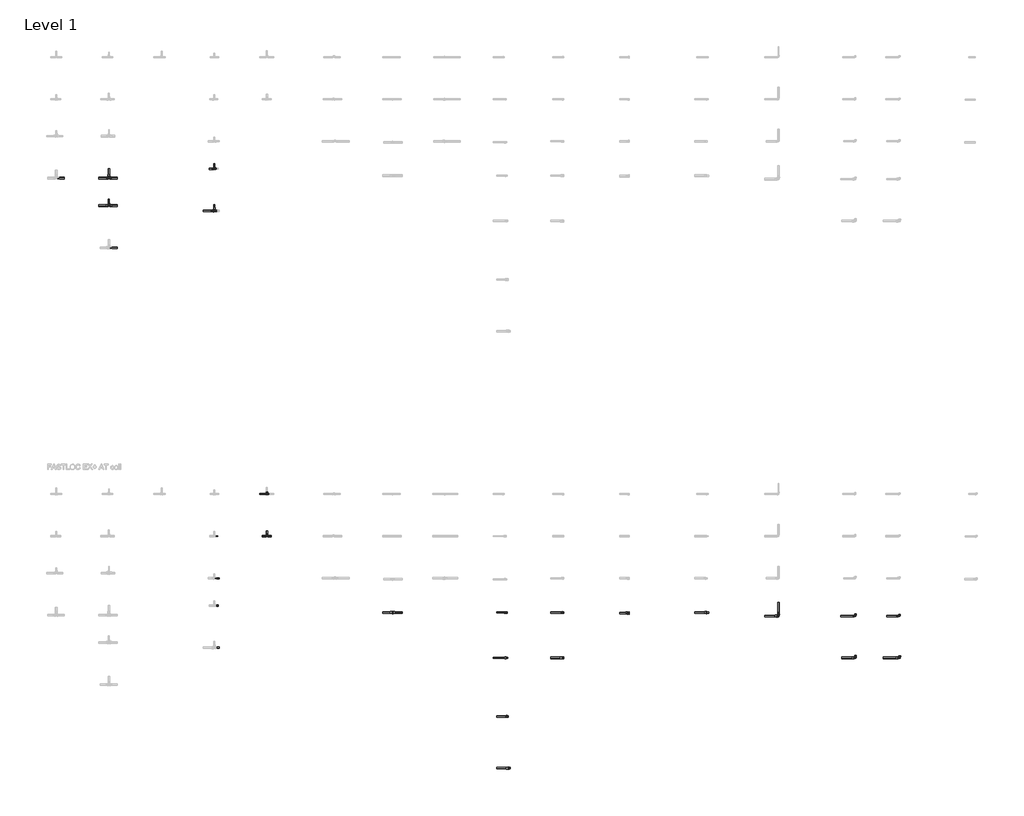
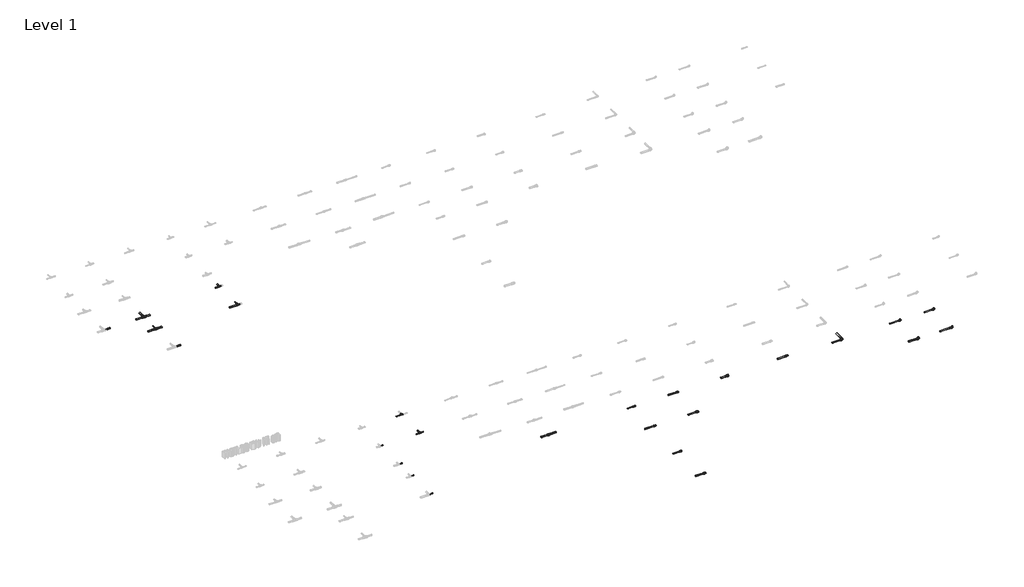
# One storey, part 7 of 16: 36 pipe segments, 20 pipe fittings.
"""IFC4 building model written with IfcOpenShell, lengths in millimetres."""

from ifc_helpers import new_model, si_unit, point, frame, frame_2d, origin, place, context, project, spatial, circle_curve, trimmed, segment, composite_curve, outline, extrude, transform, mapped, element, save
from components import pipe_fitting_78029988, pipe_fitting_d71fb650, pipe_fitting_546e3b0f, pipe_fitting_bc9683d6, pipe_fitting_048a34f4, pipe_fitting_d5e3d02e, pipe_fitting_bff7a8e0, pipe_fitting_f7ca1bd1, pipe_fitting_e188583c, pipe_fitting_cd4c1f98, pipe_fitting_85239123, pipe_fitting_6c2c1df7, pipe_fitting_8eda894a, pipe_fitting_8464d15c, pipe_fitting_a2f8d1bd, pipe_fitting_ed7d2527, pipe_fitting_034b971a, pipe_fitting_5e5bb3cb, pipe_fitting_b159315d, pipe_fitting_1c80bece

model = new_model("IFC4")

# Units and contexts
model_context = context("Model", 3, world=origin())
ifc_project = project(units=[si_unit("LENGTHUNIT", "METRE", prefix="MILLI")], contexts=[model_context])

# Site, building, storey
site = spatial("IfcSite", under=ifc_project)
building = spatial("IfcBuilding", under=site)
storey = spatial("IfcBuildingStorey", under=building, Name="Level 1", Elevation=0.0)

# Pipe fittings
placement = place(None, origin())
pipe_fitting_shape = pipe_fitting_78029988(model_context)
element("IfcPipeFitting", 1, ObjectType="FASTLOC_T-piece_EX+ : FSL T-Piece EX+ AT", at=placement, inside=storey, context=model_context, shape_type="MappedRepresentation", body=[
    mapped(pipe_fitting_shape, transform((32962.9146925, -6287.6479967, 0.0), x_axis=(1.0, 0.0, 0.0), y_axis=(0.0, 1.0, 0.0), z_axis=(0.0, 0.0, 1.0))),
])
pipe_fitting_2_shape = pipe_fitting_d71fb650(model_context)
element("IfcPipeFitting", 2, ObjectType="FASTLOC_Elbow with male thread EX+ : FSL A internal AT", at=placement, inside=storey, context=model_context, shape_type="MappedRepresentation", body=[
    mapped(pipe_fitting_2_shape, transform((44135.3824015, -8604.9640428, 0.0), x_axis=(1.0, 0.0, 0.0), y_axis=(0.0, 1.0, 0.0), z_axis=(0.0, 0.0, 1.0))),
])
pipe_fitting_3_shape = pipe_fitting_546e3b0f(model_context)
element("IfcPipeFitting", 3, ObjectType="FASTLOC_Elbow with male thread EX+ : FSL A internal AT", at=placement, inside=storey, context=model_context, shape_type="MappedRepresentation", body=[
    mapped(pipe_fitting_3_shape, transform((44135.3824015, -9399.407392, 0.0), x_axis=(1.0, 0.0, 0.0), y_axis=(0.0, 1.0, 0.0), z_axis=(0.0, 0.0, 1.0))),
])
pipe_fitting_4_shape = pipe_fitting_bc9683d6(model_context)
element("IfcPipeFitting", 4, ObjectType="FASTLOC_T-piece_EX+ : FSL T-Piece EX+ DE", at=placement, inside=storey, context=model_context, shape_type="MappedRepresentation", body=[
    mapped(pipe_fitting_4_shape, transform((29962.9146925, -287.6479967, 0.0), x_axis=(1.0, 0.0, 0.0), y_axis=(0.0, 1.0, 0.0), z_axis=(0.0, 0.0, 1.0))),
])
pipe_fitting_5_shape = pipe_fitting_048a34f4(model_context)
element("IfcPipeFitting", 5, ObjectType="FASTLOC_T-piece_EX+ : FSL T-Piece EX+ DE", at=placement, inside=storey, context=model_context, shape_type="MappedRepresentation", body=[
    mapped(pipe_fitting_5_shape, transform((29962.9146925, -807.6479967, 0.0), x_axis=(1.0, 0.0, 0.0), y_axis=(0.0, 1.0, 0.0), z_axis=(0.0, 0.0, 1.0))),
])
pipe_fitting_6_shape = pipe_fitting_d5e3d02e(model_context)
element("IfcPipeFitting", 6, ObjectType="FASTLOC_T-piece_EX+ : FSL T-Piece EX+ DE", at=placement, inside=storey, context=model_context, shape_type="MappedRepresentation", body=[
    mapped(pipe_fitting_6_shape, transform((31962.9146925, -907.6479967, 0.0), x_axis=(1.0, 0.0, 0.0), y_axis=(0.0, 1.0, 0.0), z_axis=(0.0, 0.0, 1.0))),
])
pipe_fitting_7_shape = pipe_fitting_bff7a8e0(model_context)
element("IfcPipeFitting", 7, ObjectType="FASTLOC_T-piece_EX+ : FSL T-Piece EX+ DE", at=placement, inside=storey, context=model_context, shape_type="MappedRepresentation", body=[
    mapped(pipe_fitting_7_shape, transform((31962.9146925, -107.6479967, 0.0), x_axis=(1.0, 0.0, 0.0), y_axis=(0.0, 1.0, 0.0), z_axis=(0.0, 0.0, 1.0))),
])
pipe_fitting_8_shape = pipe_fitting_f7ca1bd1(model_context)
element("IfcPipeFitting", 8, ObjectType="FASTLOC_T-piece_EX+ : FSL T-Piece EX+ AT", at=placement, inside=storey, context=model_context, shape_type="MappedRepresentation", body=[
    mapped(pipe_fitting_8_shape, transform((32962.9146925, -7087.6479967, 0.0), x_axis=(1.0, 0.0, 0.0), y_axis=(0.0, 1.0, 0.0), z_axis=(0.0, 0.0, 1.0))),
])
pipe_fitting_9_shape = pipe_fitting_e188583c(model_context)
element("IfcPipeFitting", 9, ObjectType="FASTLOC Copper press adapter RX+ : FSL RX+ AT", at=placement, inside=storey, context=model_context, shape_type="MappedRepresentation", body=[
    mapped(pipe_fitting_9_shape, transform((41315.3824015, -8539.0537829, 0.0), x_axis=(1.0, 0.0, 0.0), y_axis=(0.0, 1.0, 0.0), z_axis=(0.0, 0.0, 1.0))),
])
pipe_fitting_10_shape = pipe_fitting_cd4c1f98(model_context)
element("IfcPipeFitting", 10, ObjectType="FASTLOC_Adapter_EX+, with internal thread : FSL A internal AT", at=placement, inside=storey, context=model_context, shape_type="MappedRepresentation", body=[
    mapped(pipe_fitting_10_shape, transform((38579.5143796, -8539.0537829, 0.0), x_axis=(1.0, 0.0, 0.0), y_axis=(0.0, 1.0, 0.0), z_axis=(0.0, 0.0, 1.0))),
])
pipe_fitting_11_shape = pipe_fitting_85239123(model_context)
element("IfcPipeFitting", 11, ObjectType="FASTLOC_Adapter_EX+, with internal thread : FSL A internal AT", at=placement, inside=storey, context=model_context, shape_type="MappedRepresentation", body=[
    mapped(pipe_fitting_11_shape, transform((38579.5143796, -9399.407392, 0.0), x_axis=(1.0, 0.0, 0.0), y_axis=(0.0, 1.0, 0.0), z_axis=(0.0, 0.0, 1.0))),
])
pipe_fitting_12_shape = pipe_fitting_6c2c1df7(model_context)
element("IfcPipeFitting", 12, ObjectType="FASTLOC_Elbow with female thread EX+ : FSL A internal AT", at=placement, inside=storey, context=model_context, shape_type="MappedRepresentation", body=[
    mapped(pipe_fitting_12_shape, transform((44973.8113057, -8604.9640428, 0.0), x_axis=(1.0, 0.0, 0.0), y_axis=(0.0, 1.0, 0.0), z_axis=(0.0, 0.0, 1.0))),
])
pipe_fitting_13_shape = pipe_fitting_8eda894a(model_context)
element("IfcPipeFitting", 13, ObjectType="FASTLOC_Elbow with female thread EX+ : FSL A internal AT", at=placement, inside=storey, context=model_context, shape_type="MappedRepresentation", body=[
    mapped(pipe_fitting_13_shape, transform((44973.8113057, -9399.407392, 0.0), x_axis=(1.0, 0.0, 0.0), y_axis=(0.0, 1.0, 0.0), z_axis=(0.0, 0.0, 1.0))),
])
pipe_fitting_14_shape = pipe_fitting_8464d15c(model_context)
element("IfcPipeFitting", 14, ObjectType="FASTLOC_Coupling equal EX+ : FSL C EX AT", at=placement, inside=storey, context=model_context, shape_type="MappedRepresentation", body=[
    mapped(pipe_fitting_14_shape, transform((35347.6401575, -8539.0537829, 0.0), x_axis=(1.0, 0.0, 0.0), y_axis=(0.0, 1.0, 0.0), z_axis=(0.0, 0.0, 1.0))),
])
pipe_fitting_15_shape = pipe_fitting_a2f8d1bd(model_context)
element("IfcPipeFitting", 15, ObjectType="FASTLOC_Corner EX+ : FSL C EX+ AT", at=placement, inside=storey, context=model_context, shape_type="MappedRepresentation", body=[
    mapped(pipe_fitting_15_shape, transform((42675.3824015, -8604.9640428, 0.0), x_axis=(1.0, 0.0, 0.0), y_axis=(0.0, 1.0, 0.0), z_axis=(0.0, 0.0, 1.0))),
])
pipe_fitting_16_shape = pipe_fitting_ed7d2527(model_context)
element("IfcPipeFitting", 16, ObjectType="FASTLOC_Adapter_RX+, with external thread : FSL A C external EX+ AT", at=placement, inside=storey, context=model_context, shape_type="MappedRepresentation", body=[
    mapped(pipe_fitting_16_shape, transform((37498.2332092, -8539.0537829, 0.0), x_axis=(1.0, 0.0, 0.0), y_axis=(0.0, 1.0, 0.0), z_axis=(0.0, 0.0, 1.0))),
])
pipe_fitting_17_shape = pipe_fitting_034b971a(model_context)
element("IfcPipeFitting", 17, ObjectType="FASTLOC_Adapter_RX+, with external thread : FSL A C external EX+ AT", at=placement, inside=storey, context=model_context, shape_type="MappedRepresentation", body=[
    mapped(pipe_fitting_17_shape, transform((37510.8952889, -9399.407392, 0.0), x_axis=(1.0, 0.0, 0.0), y_axis=(0.0, 1.0, 0.0), z_axis=(0.0, 0.0, 1.0))),
])
pipe_fitting_18_shape = pipe_fitting_5e5bb3cb(model_context)
element("IfcPipeFitting", 18, ObjectType="FASTLOC_Adapter_RX+, with external thread : FSL A C external EX+ AT", at=placement, inside=storey, context=model_context, shape_type="MappedRepresentation", body=[
    mapped(pipe_fitting_18_shape, transform((37515.9601208, -10513.6704117, 0.0), x_axis=(1.0, 0.0, 0.0), y_axis=(0.0, 1.0, 0.0), z_axis=(0.0, 0.0, 1.0))),
])
pipe_fitting_19_shape = pipe_fitting_b159315d(model_context)
element("IfcPipeFitting", 19, ObjectType="FASTLOC_Adapter_RX+, with external thread : FSL A C external EX+ AT", at=placement, inside=storey, context=model_context, shape_type="MappedRepresentation", body=[
    mapped(pipe_fitting_19_shape, transform((37553.9463601, -11493.7153858, 0.0), x_axis=(1.0, 0.0, 0.0), y_axis=(0.0, 1.0, 0.0), z_axis=(0.0, 0.0, 1.0))),
])
pipe_fitting_20_shape = pipe_fitting_1c80bece(model_context)
element("IfcPipeFitting", 20, ObjectType="FASTLOC_Adapter with union nut EX+ : FSL A union nut EX+ AT", at=placement, inside=storey, context=model_context, shape_type="MappedRepresentation", body=[
    mapped(pipe_fitting_20_shape, transform((39818.3503777, -8547.0537829, 0.0), x_axis=(1.0, 0.0, 0.0), y_axis=(0.0, 1.0, 0.0), z_axis=(0.0, 0.0, 1.0))),
])

# Pipe segments
element("IfcPipeSegment", 21, ObjectType="FASTLOC EX+ ML DE coil", at=placement, inside=storey, context=model_context, shape_type="SweptSolid", body=[
    extrude(outline(composite_curve([segment(trimmed(circle_curve(frame_2d((0.0, 31962.9146925)), 10.0), [point((0.0, 31972.9146925))], [point((10.0, 31962.9146925))], False, "CARTESIAN"), True, "CONTINUOUS"), segment(trimmed(circle_curve(frame_2d((0.0, 31962.9146925)), 10.0), [point((10.0, 31962.9146925))], [point((0.0, 31952.9146925))], False, "CARTESIAN"), True, "CONTINUOUS"), segment(trimmed(circle_curve(frame_2d((0.0, 31962.9146925)), 10.0), [point((0.0, 31952.9146925))], [point((-10.0, 31962.9146925))], False, "CARTESIAN"), True, "CONTINUOUS"), segment(trimmed(circle_curve(frame_2d((0.0, 31962.9146925)), 10.0), [point((-10.0, 31962.9146925))], [point((0.0, 31972.9146925))], False, "CARTESIAN"), True, "CONTINUOUS")], self_intersect=False)), frame((0.0, -78.4479967, 0.0), z_axis=(0.0, 1.0, 0.0), x_axis=(0.0, 0.0, 1.0)), (0.0, 0.0, 1.0), 65.0),
])
element("IfcPipeSegment", 22, ObjectType="FASTLOC EX+ ML DE coil", at=placement, inside=storey, context=model_context, shape_type="SweptSolid", body=[
    extrude(outline(composite_curve([segment(trimmed(circle_curve(frame_2d((-107.6479967, 0.0)), 12.5), [point((-95.1479967, 0.0))], [point((-107.6479967, -12.5))], False, "CARTESIAN"), True, "CONTINUOUS"), segment(trimmed(circle_curve(frame_2d((-107.6479967, 0.0)), 12.5), [point((-107.6479967, -12.5))], [point((-120.1479967, 0.0))], False, "CARTESIAN"), True, "CONTINUOUS"), segment(trimmed(circle_curve(frame_2d((-107.6479967, 0.0)), 12.5), [point((-120.1479967, 0.0))], [point((-107.6479967, 12.5))], False, "CARTESIAN"), True, "CONTINUOUS"), segment(trimmed(circle_curve(frame_2d((-107.6479967, 0.0)), 12.5), [point((-107.6479967, 12.5))], [point((-95.1479967, 0.0))], False, "CARTESIAN"), True, "CONTINUOUS")], self_intersect=False)), frame((31864.6146925, 0.0, 0.0), z_axis=(1.0, 0.0, 0.0), x_axis=(0.0, 1.0, 0.0)), (0.0, 0.0, 1.0), 80.0),
])
element("IfcPipeSegment", 23, ObjectType="FASTLOC EX+ ML DE coil", at=placement, inside=storey, context=model_context, shape_type="SweptSolid", body=[
    extrude(outline(composite_curve([segment(trimmed(circle_curve(frame_2d((0.0, 31962.9146925)), 12.5), [point((0.0, 31975.4146925))], [point((12.5, 31962.9146925))], False, "CARTESIAN"), True, "CONTINUOUS"), segment(trimmed(circle_curve(frame_2d((0.0, 31962.9146925)), 12.5), [point((12.5, 31962.9146925))], [point((0.0, 31950.4146925))], False, "CARTESIAN"), True, "CONTINUOUS"), segment(trimmed(circle_curve(frame_2d((0.0, 31962.9146925)), 12.5), [point((0.0, 31950.4146925))], [point((-12.5, 31962.9146925))], False, "CARTESIAN"), True, "CONTINUOUS"), segment(trimmed(circle_curve(frame_2d((0.0, 31962.9146925)), 12.5), [point((-12.5, 31962.9146925))], [point((0.0, 31975.4146925))], False, "CARTESIAN"), True, "CONTINUOUS")], self_intersect=False)), frame((0.0, -873.2479967, 0.0), z_axis=(0.0, 1.0, 0.0), x_axis=(0.0, 0.0, 1.0)), (0.0, 0.0, 1.0), 85.0),
])
element("IfcPipeSegment", 24, ObjectType="FASTLOC EX+ ML DE coil", at=placement, inside=storey, context=model_context, shape_type="SweptSolid", body=[
    extrude(outline(composite_curve([segment(trimmed(circle_curve(frame_2d((-907.6479967, 0.0)), 16.0), [point((-891.6479967, 0.0))], [point((-907.6479967, -16.0))], False, "CARTESIAN"), True, "CONTINUOUS"), segment(trimmed(circle_curve(frame_2d((-907.6479967, 0.0)), 16.0), [point((-907.6479967, -16.0))], [point((-923.6479967, 0.0))], False, "CARTESIAN"), True, "CONTINUOUS"), segment(trimmed(circle_curve(frame_2d((-907.6479967, 0.0)), 16.0), [point((-923.6479967, 0.0))], [point((-907.6479967, 16.0))], False, "CARTESIAN"), True, "CONTINUOUS"), segment(trimmed(circle_curve(frame_2d((-907.6479967, 0.0)), 16.0), [point((-907.6479967, 16.0))], [point((-891.6479967, 0.0))], False, "CARTESIAN"), True, "CONTINUOUS")], self_intersect=False)), frame((31755.8146925, 0.0, 0.0), z_axis=(1.0, 0.0, 0.0), x_axis=(0.0, 1.0, 0.0)), (0.0, 0.0, 1.0), 185.0),
])
element("IfcPipeSegment", 25, ObjectType="FASTLOC EX+ ML DE coil", at=placement, inside=storey, context=model_context, shape_type="SweptSolid", body=[
    extrude(outline(composite_curve([segment(trimmed(circle_curve(frame_2d((-287.6479967, 0.0)), 16.0), [point((-303.6479967, 0.0))], [point((-287.6479967, 16.0))], False, "CARTESIAN"), True, "CONTINUOUS"), segment(trimmed(circle_curve(frame_2d((-287.6479967, 0.0)), 16.0), [point((-287.6479967, 16.0))], [point((-271.6479967, 0.0))], False, "CARTESIAN"), True, "CONTINUOUS"), segment(trimmed(circle_curve(frame_2d((-287.6479967, 0.0)), 16.0), [point((-271.6479967, 0.0))], [point((-287.6479967, -16.0))], False, "CARTESIAN"), True, "CONTINUOUS"), segment(trimmed(circle_curve(frame_2d((-287.6479967, 0.0)), 16.0), [point((-287.6479967, -16.0))], [point((-303.6479967, 0.0))], False, "CARTESIAN"), True, "CONTINUOUS")], self_intersect=False)), frame((29987.7146925, 0.0, 0.0), z_axis=(1.0, 0.0, 0.0), x_axis=(0.0, 1.0, 0.0)), (0.0, 0.0, 1.0), 130.0),
])
element("IfcPipeSegment", 26, ObjectType="FASTLOC EX+ ML DE coil", at=placement, inside=storey, context=model_context, shape_type="SweptSolid", body=[
    extrude(outline(composite_curve([segment(trimmed(circle_curve(frame_2d((0.0, 29962.9146925)), 16.0), [point((0.0, 29978.9146925))], [point((16.0, 29962.9146925))], False, "CARTESIAN"), True, "CONTINUOUS"), segment(trimmed(circle_curve(frame_2d((0.0, 29962.9146925)), 16.0), [point((16.0, 29962.9146925))], [point((0.0, 29946.9146925))], False, "CARTESIAN"), True, "CONTINUOUS"), segment(trimmed(circle_curve(frame_2d((0.0, 29962.9146925)), 16.0), [point((0.0, 29946.9146925))], [point((-16.0, 29962.9146925))], False, "CARTESIAN"), True, "CONTINUOUS"), segment(trimmed(circle_curve(frame_2d((0.0, 29962.9146925)), 16.0), [point((-16.0, 29962.9146925))], [point((0.0, 29978.9146925))], False, "CARTESIAN"), True, "CONTINUOUS")], self_intersect=False)), frame((0.0, -251.5479967, 0.0), z_axis=(0.0, 1.0, 0.0), x_axis=(0.0, 0.0, 1.0)), (0.0, 0.0, 1.0), 145.0),
])
element("IfcPipeSegment", 27, ObjectType="FASTLOC EX+ ML DE coil", at=placement, inside=storey, context=model_context, shape_type="SweptSolid", body=[
    extrude(outline(composite_curve([segment(trimmed(circle_curve(frame_2d((-287.6479967, 0.0)), 16.0), [point((-271.6479967, 0.0))], [point((-287.6479967, -16.0))], False, "CARTESIAN"), True, "CONTINUOUS"), segment(trimmed(circle_curve(frame_2d((-287.6479967, 0.0)), 16.0), [point((-287.6479967, -16.0))], [point((-303.6479967, 0.0))], False, "CARTESIAN"), True, "CONTINUOUS"), segment(trimmed(circle_curve(frame_2d((-287.6479967, 0.0)), 16.0), [point((-303.6479967, 0.0))], [point((-287.6479967, 16.0))], False, "CARTESIAN"), True, "CONTINUOUS"), segment(trimmed(circle_curve(frame_2d((-287.6479967, 0.0)), 16.0), [point((-287.6479967, 16.0))], [point((-271.6479967, 0.0))], False, "CARTESIAN"), True, "CONTINUOUS")], self_intersect=False)), frame((29773.1146925, 0.0, 0.0), z_axis=(1.0, 0.0, 0.0), x_axis=(0.0, 1.0, 0.0)), (0.0, 0.0, 1.0), 165.0),
])
element("IfcPipeSegment", 28, ObjectType="FASTLOC EX+ ML DE coil", at=placement, inside=storey, context=model_context, shape_type="SweptSolid", body=[
    extrude(outline(composite_curve([segment(trimmed(circle_curve(frame_2d((-807.6479967, 0.0)), 16.0), [point((-823.6479967, 0.0))], [point((-807.6479967, 16.0))], False, "CARTESIAN"), True, "CONTINUOUS"), segment(trimmed(circle_curve(frame_2d((-807.6479967, 0.0)), 16.0), [point((-807.6479967, 16.0))], [point((-791.6479967, 0.0))], False, "CARTESIAN"), True, "CONTINUOUS"), segment(trimmed(circle_curve(frame_2d((-807.6479967, 0.0)), 16.0), [point((-791.6479967, 0.0))], [point((-807.6479967, -16.0))], False, "CARTESIAN"), True, "CONTINUOUS"), segment(trimmed(circle_curve(frame_2d((-807.6479967, 0.0)), 16.0), [point((-807.6479967, -16.0))], [point((-823.6479967, 0.0))], False, "CARTESIAN"), True, "CONTINUOUS")], self_intersect=False)), frame((29983.1146925, 0.0, 0.0), z_axis=(1.0, 0.0, 0.0), x_axis=(0.0, 1.0, 0.0)), (0.0, 0.0, 1.0), 134.6),
])
element("IfcPipeSegment", 29, ObjectType="FASTLOC EX+ ML DE coil", at=placement, inside=storey, context=model_context, shape_type="SweptSolid", body=[
    extrude(outline(composite_curve([segment(trimmed(circle_curve(frame_2d((-807.6479967, 0.0)), 16.0), [point((-791.6479967, 0.0))], [point((-807.6479967, -16.0))], False, "CARTESIAN"), True, "CONTINUOUS"), segment(trimmed(circle_curve(frame_2d((-807.6479967, 0.0)), 16.0), [point((-807.6479967, -16.0))], [point((-823.6479967, 0.0))], False, "CARTESIAN"), True, "CONTINUOUS"), segment(trimmed(circle_curve(frame_2d((-807.6479967, 0.0)), 16.0), [point((-823.6479967, 0.0))], [point((-807.6479967, 16.0))], False, "CARTESIAN"), True, "CONTINUOUS"), segment(trimmed(circle_curve(frame_2d((-807.6479967, 0.0)), 16.0), [point((-807.6479967, 16.0))], [point((-791.6479967, 0.0))], False, "CARTESIAN"), True, "CONTINUOUS")], self_intersect=False)), frame((29773.1146925, 0.0, 0.0), z_axis=(1.0, 0.0, 0.0), x_axis=(0.0, 1.0, 0.0)), (0.0, 0.0, 1.0), 169.6),
])
element("IfcPipeSegment", 30, ObjectType="FASTLOC EX+ ML DE coil", at=placement, inside=storey, context=model_context, shape_type="SweptSolid", body=[
    extrude(outline(composite_curve([segment(trimmed(circle_curve(frame_2d((0.0, 29962.9146925)), 10.0), [point((0.0, 29972.9146925))], [point((10.0, 29962.9146925))], False, "CARTESIAN"), True, "CONTINUOUS"), segment(trimmed(circle_curve(frame_2d((0.0, 29962.9146925)), 10.0), [point((10.0, 29962.9146925))], [point((0.0, 29952.9146925))], False, "CARTESIAN"), True, "CONTINUOUS"), segment(trimmed(circle_curve(frame_2d((0.0, 29962.9146925)), 10.0), [point((0.0, 29952.9146925))], [point((-10.0, 29962.9146925))], False, "CARTESIAN"), True, "CONTINUOUS"), segment(trimmed(circle_curve(frame_2d((0.0, 29962.9146925)), 10.0), [point((-10.0, 29962.9146925))], [point((0.0, 29972.9146925))], False, "CARTESIAN"), True, "CONTINUOUS")], self_intersect=False)), frame((0.0, -773.6479967, 0.0), z_axis=(0.0, 1.0, 0.0), x_axis=(0.0, 0.0, 1.0)), (0.0, 0.0, 1.0), 90.0),
])
element("IfcPipeSegment", 31, ObjectType="FASTLOC EX+ ML DE coil", at=placement, inside=storey, context=model_context, shape_type="SweptSolid", body=[
    extrude(outline(composite_curve([segment(trimmed(circle_curve(frame_2d((-1607.6479967, 0.0)), 16.0), [point((-1623.6479967, 0.0))], [point((-1607.6479967, 16.0))], False, "CARTESIAN"), True, "CONTINUOUS"), segment(trimmed(circle_curve(frame_2d((-1607.6479967, 0.0)), 16.0), [point((-1607.6479967, 16.0))], [point((-1591.6479967, 0.0))], False, "CARTESIAN"), True, "CONTINUOUS"), segment(trimmed(circle_curve(frame_2d((-1607.6479967, 0.0)), 16.0), [point((-1591.6479967, 0.0))], [point((-1607.6479967, -16.0))], False, "CARTESIAN"), True, "CONTINUOUS"), segment(trimmed(circle_curve(frame_2d((-1607.6479967, 0.0)), 16.0), [point((-1607.6479967, -16.0))], [point((-1623.6479967, 0.0))], False, "CARTESIAN"), True, "CONTINUOUS")], self_intersect=False)), frame((29984.9146925, 0.0, 0.0), z_axis=(1.0, 0.0, 0.0), x_axis=(0.0, 1.0, 0.0)), (0.0, 0.0, 1.0), 132.8),
])
element("IfcPipeSegment", 32, ObjectType="FASTLOC EX+ ML DE coil", at=placement, inside=storey, context=model_context, shape_type="SweptSolid", body=[
    extrude(outline(composite_curve([segment(trimmed(circle_curve(frame_2d((-287.6479967, 0.0)), 16.0), [point((-303.6479967, 0.0))], [point((-287.6479967, 16.0))], False, "CARTESIAN"), True, "CONTINUOUS"), segment(trimmed(circle_curve(frame_2d((-287.6479967, 0.0)), 16.0), [point((-287.6479967, 16.0))], [point((-271.6479967, 0.0))], False, "CARTESIAN"), True, "CONTINUOUS"), segment(trimmed(circle_curve(frame_2d((-287.6479967, 0.0)), 16.0), [point((-271.6479967, 0.0))], [point((-287.6479967, -16.0))], False, "CARTESIAN"), True, "CONTINUOUS"), segment(trimmed(circle_curve(frame_2d((-287.6479967, 0.0)), 16.0), [point((-287.6479967, -16.0))], [point((-303.6479967, 0.0))], False, "CARTESIAN"), True, "CONTINUOUS")], self_intersect=False)), frame((28987.7146925, 0.0, 0.0), z_axis=(1.0, 0.0, 0.0), x_axis=(0.0, 1.0, 0.0)), (0.0, 0.0, 1.0), 130.0),
])
element("IfcPipeSegment", 33, ObjectType="FASTLOC EX+ ML AT coil", at=placement, inside=storey, context=model_context, shape_type="SweptSolid", body=[
    extrude(outline(composite_curve([segment(trimmed(circle_curve(frame_2d((-8604.9640428, 0.0)), 12.5), [point((-8592.4640428, 0.0))], [point((-8604.9640428, -12.5))], False, "CARTESIAN"), True, "CONTINUOUS"), segment(trimmed(circle_curve(frame_2d((-8604.9640428, 0.0)), 12.5), [point((-8604.9640428, -12.5))], [point((-8617.4640428, 0.0))], False, "CARTESIAN"), True, "CONTINUOUS"), segment(trimmed(circle_curve(frame_2d((-8604.9640428, 0.0)), 12.5), [point((-8617.4640428, 0.0))], [point((-8604.9640428, 12.5))], False, "CARTESIAN"), True, "CONTINUOUS"), segment(trimmed(circle_curve(frame_2d((-8604.9640428, 0.0)), 12.5), [point((-8604.9640428, 12.5))], [point((-8592.4640428, 0.0))], False, "CARTESIAN"), True, "CONTINUOUS")], self_intersect=False)), frame((44726.8113057, 0.0, 0.0), z_axis=(1.0, 0.0, 0.0), x_axis=(0.0, 1.0, 0.0)), (0.0, 0.0, 1.0), 220.0),
])
element("IfcPipeSegment", 34, ObjectType="FASTLOC EX+ ML AT coil", at=placement, inside=storey, context=model_context, shape_type="SweptSolid", body=[
    extrude(outline(composite_curve([segment(trimmed(circle_curve(frame_2d((-8604.9640428, 0.0)), 12.5), [point((-8592.4640428, 0.0))], [point((-8604.9640428, -12.5))], False, "CARTESIAN"), True, "CONTINUOUS"), segment(trimmed(circle_curve(frame_2d((-8604.9640428, 0.0)), 12.5), [point((-8604.9640428, -12.5))], [point((-8617.4640428, 0.0))], False, "CARTESIAN"), True, "CONTINUOUS"), segment(trimmed(circle_curve(frame_2d((-8604.9640428, 0.0)), 12.5), [point((-8617.4640428, 0.0))], [point((-8604.9640428, 12.5))], False, "CARTESIAN"), True, "CONTINUOUS"), segment(trimmed(circle_curve(frame_2d((-8604.9640428, 0.0)), 12.5), [point((-8604.9640428, 12.5))], [point((-8592.4640428, 0.0))], False, "CARTESIAN"), True, "CONTINUOUS")], self_intersect=False)), frame((43861.1824015, 0.0, 0.0), z_axis=(1.0, 0.0, 0.0), x_axis=(0.0, 1.0, 0.0)), (0.0, 0.0, 1.0), 250.0),
])
element("IfcPipeSegment", 35, ObjectType="FASTLOC EX+ ML AT coil", at=placement, inside=storey, context=model_context, shape_type="SweptSolid", body=[
    extrude(outline(composite_curve([segment(trimmed(circle_curve(frame_2d((-9399.407392, 0.0)), 16.0), [point((-9383.407392, 0.0))], [point((-9399.407392, -16.0))], False, "CARTESIAN"), True, "CONTINUOUS"), segment(trimmed(circle_curve(frame_2d((-9399.407392, 0.0)), 16.0), [point((-9399.407392, -16.0))], [point((-9415.407392, 0.0))], False, "CARTESIAN"), True, "CONTINUOUS"), segment(trimmed(circle_curve(frame_2d((-9399.407392, 0.0)), 16.0), [point((-9415.407392, 0.0))], [point((-9399.407392, 16.0))], False, "CARTESIAN"), True, "CONTINUOUS"), segment(trimmed(circle_curve(frame_2d((-9399.407392, 0.0)), 16.0), [point((-9399.407392, 16.0))], [point((-9383.407392, 0.0))], False, "CARTESIAN"), True, "CONTINUOUS")], self_intersect=False)), frame((43875.6824015, 0.0, 0.0), z_axis=(1.0, 0.0, 0.0), x_axis=(0.0, 1.0, 0.0)), (0.0, 0.0, 1.0), 230.0),
])
element("IfcPipeSegment", 36, ObjectType="FASTLOC EX+ ML AT coil", at=placement, inside=storey, context=model_context, shape_type="SweptSolid", body=[
    extrude(outline(composite_curve([segment(trimmed(circle_curve(frame_2d((-9399.407392, 0.0)), 16.0), [point((-9383.407392, 0.0))], [point((-9399.407392, -16.0))], False, "CARTESIAN"), True, "CONTINUOUS"), segment(trimmed(circle_curve(frame_2d((-9399.407392, 0.0)), 16.0), [point((-9399.407392, -16.0))], [point((-9415.407392, 0.0))], False, "CARTESIAN"), True, "CONTINUOUS"), segment(trimmed(circle_curve(frame_2d((-9399.407392, 0.0)), 16.0), [point((-9415.407392, 0.0))], [point((-9399.407392, 16.0))], False, "CARTESIAN"), True, "CONTINUOUS"), segment(trimmed(circle_curve(frame_2d((-9399.407392, 0.0)), 16.0), [point((-9399.407392, 16.0))], [point((-9383.407392, 0.0))], False, "CARTESIAN"), True, "CONTINUOUS")], self_intersect=False)), frame((44661.8113057, 0.0, 0.0), z_axis=(1.0, 0.0, 0.0), x_axis=(0.0, 1.0, 0.0)), (0.0, 0.0, 1.0), 280.0),
])
element("IfcPipeSegment", 37, ObjectType="FASTLOC EX+ ML AT coil", at=placement, inside=storey, context=model_context, shape_type="SweptSolid", body=[
    extrude(outline(composite_curve([segment(trimmed(circle_curve(frame_2d((0.0, 42675.3824015)), 16.0), [point((0.0, 42691.3824015))], [point((16.0, 42675.3824015))], False, "CARTESIAN"), True, "CONTINUOUS"), segment(trimmed(circle_curve(frame_2d((0.0, 42675.3824015)), 16.0), [point((16.0, 42675.3824015))], [point((0.0, 42659.3824015))], False, "CARTESIAN"), True, "CONTINUOUS"), segment(trimmed(circle_curve(frame_2d((0.0, 42675.3824015)), 16.0), [point((0.0, 42659.3824015))], [point((-16.0, 42675.3824015))], False, "CARTESIAN"), True, "CONTINUOUS"), segment(trimmed(circle_curve(frame_2d((0.0, 42675.3824015)), 16.0), [point((-16.0, 42675.3824015))], [point((0.0, 42691.3824015))], False, "CARTESIAN"), True, "CONTINUOUS")], self_intersect=False)), frame((0.0, -8569.9640428, 0.0), z_axis=(0.0, 1.0, 0.0), x_axis=(0.0, 0.0, 1.0)), (0.0, 0.0, 1.0), 220.0),
])
element("IfcPipeSegment", 38, ObjectType="FASTLOC EX+ ML AT coil", at=placement, inside=storey, context=model_context, shape_type="SweptSolid", body=[
    extrude(outline(composite_curve([segment(trimmed(circle_curve(frame_2d((-8604.9640428, 0.0)), 16.0), [point((-8588.9640428, 0.0))], [point((-8604.9640428, -16.0))], False, "CARTESIAN"), True, "CONTINUOUS"), segment(trimmed(circle_curve(frame_2d((-8604.9640428, 0.0)), 16.0), [point((-8604.9640428, -16.0))], [point((-8620.9640428, 0.0))], False, "CARTESIAN"), True, "CONTINUOUS"), segment(trimmed(circle_curve(frame_2d((-8604.9640428, 0.0)), 16.0), [point((-8620.9640428, 0.0))], [point((-8604.9640428, 16.0))], False, "CARTESIAN"), True, "CONTINUOUS"), segment(trimmed(circle_curve(frame_2d((-8604.9640428, 0.0)), 16.0), [point((-8604.9640428, 16.0))], [point((-8588.9640428, 0.0))], False, "CARTESIAN"), True, "CONTINUOUS")], self_intersect=False)), frame((42413.2824015, 0.0, 0.0), z_axis=(1.0, 0.0, 0.0), x_axis=(0.0, 1.0, 0.0)), (0.0, 0.0, 1.0), 227.1),
])
element("IfcPipeSegment", 39, ObjectType="FASTLOC EX+ ML AT coil", at=placement, inside=storey, context=model_context, shape_type="SweptSolid", body=[
    extrude(outline(composite_curve([segment(trimmed(circle_curve(frame_2d((-8539.0537829, 0.0)), 16.0), [point((-8523.0537829, 0.0))], [point((-8539.0537829, -16.0))], False, "CARTESIAN"), True, "CONTINUOUS"), segment(trimmed(circle_curve(frame_2d((-8539.0537829, 0.0)), 16.0), [point((-8539.0537829, -16.0))], [point((-8555.0537829, 0.0))], False, "CARTESIAN"), True, "CONTINUOUS"), segment(trimmed(circle_curve(frame_2d((-8539.0537829, 0.0)), 16.0), [point((-8555.0537829, 0.0))], [point((-8539.0537829, 16.0))], False, "CARTESIAN"), True, "CONTINUOUS"), segment(trimmed(circle_curve(frame_2d((-8539.0537829, 0.0)), 16.0), [point((-8539.0537829, 16.0))], [point((-8523.0537829, 0.0))], False, "CARTESIAN"), True, "CONTINUOUS")], self_intersect=False)), frame((41082.2824015, 0.0, 0.0), z_axis=(1.0, 0.0, 0.0), x_axis=(0.0, 1.0, 0.0)), (0.0, 0.0, 1.0), 220.0),
])
element("IfcPipeSegment", 40, ObjectType="FASTLOC EX+ ML AT coil", at=placement, inside=storey, context=model_context, shape_type="SweptSolid", body=[
    extrude(outline(composite_curve([segment(trimmed(circle_curve(frame_2d((-8547.0537829, 0.0)), 16.0), [point((-8531.0537829, 0.0))], [point((-8547.0537829, -16.0))], False, "CARTESIAN"), True, "CONTINUOUS"), segment(trimmed(circle_curve(frame_2d((-8547.0537829, 0.0)), 16.0), [point((-8547.0537829, -16.0))], [point((-8563.0537829, 0.0))], False, "CARTESIAN"), True, "CONTINUOUS"), segment(trimmed(circle_curve(frame_2d((-8547.0537829, 0.0)), 16.0), [point((-8563.0537829, 0.0))], [point((-8547.0537829, 16.0))], False, "CARTESIAN"), True, "CONTINUOUS"), segment(trimmed(circle_curve(frame_2d((-8547.0537829, 0.0)), 16.0), [point((-8547.0537829, 16.0))], [point((-8531.0537829, 0.0))], False, "CARTESIAN"), True, "CONTINUOUS")], self_intersect=False)), frame((39659.3503777, 0.0, 0.0), z_axis=(1.0, 0.0, 0.0), x_axis=(0.0, 1.0, 0.0)), (0.0, 0.0, 1.0), 147.5),
])
element("IfcPipeSegment", 41, ObjectType="FASTLOC EX+ ML AT coil", at=placement, inside=storey, context=model_context, shape_type="SweptSolid", body=[
    extrude(outline(composite_curve([segment(trimmed(circle_curve(frame_2d((-8539.0537829, 0.0)), 12.5), [point((-8526.5537829, 0.0))], [point((-8539.0537829, -12.5))], False, "CARTESIAN"), True, "CONTINUOUS"), segment(trimmed(circle_curve(frame_2d((-8539.0537829, 0.0)), 12.5), [point((-8539.0537829, -12.5))], [point((-8551.5537829, 0.0))], False, "CARTESIAN"), True, "CONTINUOUS"), segment(trimmed(circle_curve(frame_2d((-8539.0537829, 0.0)), 12.5), [point((-8551.5537829, 0.0))], [point((-8539.0537829, 12.5))], False, "CARTESIAN"), True, "CONTINUOUS"), segment(trimmed(circle_curve(frame_2d((-8539.0537829, 0.0)), 12.5), [point((-8539.0537829, 12.5))], [point((-8526.5537829, 0.0))], False, "CARTESIAN"), True, "CONTINUOUS")], self_intersect=False)), frame((38346.6143796, 0.0, 0.0), z_axis=(1.0, 0.0, 0.0), x_axis=(0.0, 1.0, 0.0)), (0.0, 0.0, 1.0), 220.0),
])
element("IfcPipeSegment", 42, ObjectType="FASTLOC EX+ ML AT coil", at=placement, inside=storey, context=model_context, shape_type="SweptSolid", body=[
    extrude(outline(composite_curve([segment(trimmed(circle_curve(frame_2d((-9399.407392, 0.0)), 16.0), [point((-9383.407392, 0.0))], [point((-9399.407392, -16.0))], False, "CARTESIAN"), True, "CONTINUOUS"), segment(trimmed(circle_curve(frame_2d((-9399.407392, 0.0)), 16.0), [point((-9399.407392, -16.0))], [point((-9415.407392, 0.0))], False, "CARTESIAN"), True, "CONTINUOUS"), segment(trimmed(circle_curve(frame_2d((-9399.407392, 0.0)), 16.0), [point((-9415.407392, 0.0))], [point((-9399.407392, 16.0))], False, "CARTESIAN"), True, "CONTINUOUS"), segment(trimmed(circle_curve(frame_2d((-9399.407392, 0.0)), 16.0), [point((-9399.407392, 16.0))], [point((-9383.407392, 0.0))], False, "CARTESIAN"), True, "CONTINUOUS")], self_intersect=False)), frame((38346.6143796, 0.0, 0.0), z_axis=(1.0, 0.0, 0.0), x_axis=(0.0, 1.0, 0.0)), (0.0, 0.0, 1.0), 218.4),
])
element("IfcPipeSegment", 43, ObjectType="FASTLOC EX+ ML AT coil", at=placement, inside=storey, context=model_context, shape_type="SweptSolid", body=[
    extrude(outline(composite_curve([segment(trimmed(circle_curve(frame_2d((-10513.6704117, 0.0)), 12.5), [point((-10501.1704117, 0.0))], [point((-10513.6704117, -12.5))], False, "CARTESIAN"), True, "CONTINUOUS"), segment(trimmed(circle_curve(frame_2d((-10513.6704117, 0.0)), 12.5), [point((-10513.6704117, -12.5))], [point((-10526.1704117, 0.0))], False, "CARTESIAN"), True, "CONTINUOUS"), segment(trimmed(circle_curve(frame_2d((-10513.6704117, 0.0)), 12.5), [point((-10526.1704117, 0.0))], [point((-10513.6704117, 12.5))], False, "CARTESIAN"), True, "CONTINUOUS"), segment(trimmed(circle_curve(frame_2d((-10513.6704117, 0.0)), 12.5), [point((-10513.6704117, 12.5))], [point((-10501.1704117, 0.0))], False, "CARTESIAN"), True, "CONTINUOUS")], self_intersect=False)), frame((37326.5601208, 0.0, 0.0), z_axis=(1.0, 0.0, 0.0), x_axis=(0.0, 1.0, 0.0)), (0.0, 0.0, 1.0), 180.0),
])
element("IfcPipeSegment", 44, ObjectType="FASTLOC EX+ ML AT coil", at=placement, inside=storey, context=model_context, shape_type="SweptSolid", body=[
    extrude(outline(composite_curve([segment(trimmed(circle_curve(frame_2d((-9399.407392, 0.0)), 12.5), [point((-9386.907392, 0.0))], [point((-9399.407392, -12.5))], False, "CARTESIAN"), True, "CONTINUOUS"), segment(trimmed(circle_curve(frame_2d((-9399.407392, 0.0)), 12.5), [point((-9399.407392, -12.5))], [point((-9411.907392, 0.0))], False, "CARTESIAN"), True, "CONTINUOUS"), segment(trimmed(circle_curve(frame_2d((-9399.407392, 0.0)), 12.5), [point((-9411.907392, 0.0))], [point((-9399.407392, 12.5))], False, "CARTESIAN"), True, "CONTINUOUS"), segment(trimmed(circle_curve(frame_2d((-9399.407392, 0.0)), 12.5), [point((-9399.407392, 12.5))], [point((-9386.907392, 0.0))], False, "CARTESIAN"), True, "CONTINUOUS")], self_intersect=False)), frame((37261.4952889, 0.0, 0.0), z_axis=(1.0, 0.0, 0.0), x_axis=(0.0, 1.0, 0.0)), (0.0, 0.0, 1.0), 240.0),
])
element("IfcPipeSegment", 45, ObjectType="FASTLOC EX+ ML AT coil", at=placement, inside=storey, context=model_context, shape_type="SweptSolid", body=[
    extrude(outline(composite_curve([segment(trimmed(circle_curve(frame_2d((-8539.0537829, 0.0)), 10.0), [point((-8529.0537829, 0.0))], [point((-8539.0537829, -10.0))], False, "CARTESIAN"), True, "CONTINUOUS"), segment(trimmed(circle_curve(frame_2d((-8539.0537829, 0.0)), 10.0), [point((-8539.0537829, -10.0))], [point((-8549.0537829, 0.0))], False, "CARTESIAN"), True, "CONTINUOUS"), segment(trimmed(circle_curve(frame_2d((-8539.0537829, 0.0)), 10.0), [point((-8549.0537829, 0.0))], [point((-8539.0537829, 10.0))], False, "CARTESIAN"), True, "CONTINUOUS"), segment(trimmed(circle_curve(frame_2d((-8539.0537829, 0.0)), 10.0), [point((-8539.0537829, 10.0))], [point((-8529.0537829, 0.0))], False, "CARTESIAN"), True, "CONTINUOUS")], self_intersect=False)), frame((37326.5601208, 0.0, 0.0), z_axis=(1.0, 0.0, 0.0), x_axis=(0.0, 1.0, 0.0)), (0.0, 0.0, 1.0), 162.3730883),
])
element("IfcPipeSegment", 46, ObjectType="FASTLOC EX+ ML AT coil", at=placement, inside=storey, context=model_context, shape_type="SweptSolid", body=[
    extrude(outline(composite_curve([segment(trimmed(circle_curve(frame_2d((-8539.0537829, 0.0)), 16.0), [point((-8555.0537829, 0.0))], [point((-8539.0537829, 16.0))], False, "CARTESIAN"), True, "CONTINUOUS"), segment(trimmed(circle_curve(frame_2d((-8539.0537829, 0.0)), 16.0), [point((-8539.0537829, 16.0))], [point((-8523.0537829, 0.0))], False, "CARTESIAN"), True, "CONTINUOUS"), segment(trimmed(circle_curve(frame_2d((-8539.0537829, 0.0)), 16.0), [point((-8523.0537829, 0.0))], [point((-8539.0537829, -16.0))], False, "CARTESIAN"), True, "CONTINUOUS"), segment(trimmed(circle_curve(frame_2d((-8539.0537829, 0.0)), 16.0), [point((-8539.0537829, -16.0))], [point((-8555.0537829, 0.0))], False, "CARTESIAN"), True, "CONTINUOUS")], self_intersect=False)), frame((35357.6401575, 0.0, 0.0), z_axis=(1.0, 0.0, 0.0), x_axis=(0.0, 1.0, 0.0)), (0.0, 0.0, 1.0), 178.0),
])
element("IfcPipeSegment", 47, ObjectType="FASTLOC EX+ ML AT coil", at=placement, inside=storey, context=model_context, shape_type="SweptSolid", body=[
    extrude(outline(composite_curve([segment(trimmed(circle_curve(frame_2d((-8539.0537829, 0.0)), 16.0), [point((-8523.0537829, 0.0))], [point((-8539.0537829, -16.0))], False, "CARTESIAN"), True, "CONTINUOUS"), segment(trimmed(circle_curve(frame_2d((-8539.0537829, 0.0)), 16.0), [point((-8539.0537829, -16.0))], [point((-8555.0537829, 0.0))], False, "CARTESIAN"), True, "CONTINUOUS"), segment(trimmed(circle_curve(frame_2d((-8539.0537829, 0.0)), 16.0), [point((-8555.0537829, 0.0))], [point((-8539.0537829, 16.0))], False, "CARTESIAN"), True, "CONTINUOUS"), segment(trimmed(circle_curve(frame_2d((-8539.0537829, 0.0)), 16.0), [point((-8539.0537829, 16.0))], [point((-8523.0537829, 0.0))], False, "CARTESIAN"), True, "CONTINUOUS")], self_intersect=False)), frame((35157.6401575, 0.0, 0.0), z_axis=(1.0, 0.0, 0.0), x_axis=(0.0, 1.0, 0.0)), (0.0, 0.0, 1.0), 180.0),
])
element("IfcPipeSegment", 48, ObjectType="FASTLOC EX+ ML AT coil", at=placement, inside=storey, context=model_context, shape_type="SweptSolid", body=[
    extrude(outline(composite_curve([segment(trimmed(circle_curve(frame_2d((-6287.6479967, 0.0)), 8.0), [point((-6279.6479967, 0.0))], [point((-6287.6479967, -8.0))], False, "CARTESIAN"), True, "CONTINUOUS"), segment(trimmed(circle_curve(frame_2d((-6287.6479967, 0.0)), 8.0), [point((-6287.6479967, -8.0))], [point((-6295.6479967, 0.0))], False, "CARTESIAN"), True, "CONTINUOUS"), segment(trimmed(circle_curve(frame_2d((-6287.6479967, 0.0)), 8.0), [point((-6295.6479967, 0.0))], [point((-6287.6479967, 8.0))], False, "CARTESIAN"), True, "CONTINUOUS"), segment(trimmed(circle_curve(frame_2d((-6287.6479967, 0.0)), 8.0), [point((-6287.6479967, 8.0))], [point((-6279.6479967, 0.0))], False, "CARTESIAN"), True, "CONTINUOUS")], self_intersect=False)), frame((32826.0146925, 0.0, 0.0), z_axis=(1.0, 0.0, 0.0), x_axis=(0.0, 1.0, 0.0)), (0.0, 0.0, 1.0), 120.0),
])
element("IfcPipeSegment", 49, ObjectType="FASTLOC EX+ ML AT coil", at=placement, inside=storey, context=model_context, shape_type="SweptSolid", body=[
    extrude(outline(composite_curve([segment(trimmed(circle_curve(frame_2d((-7087.6479967, 0.0)), 10.0), [point((-7077.6479967, 0.0))], [point((-7087.6479967, -10.0))], False, "CARTESIAN"), True, "CONTINUOUS"), segment(trimmed(circle_curve(frame_2d((-7087.6479967, 0.0)), 10.0), [point((-7087.6479967, -10.0))], [point((-7097.6479967, 0.0))], False, "CARTESIAN"), True, "CONTINUOUS"), segment(trimmed(circle_curve(frame_2d((-7087.6479967, 0.0)), 10.0), [point((-7097.6479967, 0.0))], [point((-7087.6479967, 10.0))], False, "CARTESIAN"), True, "CONTINUOUS"), segment(trimmed(circle_curve(frame_2d((-7087.6479967, 0.0)), 10.0), [point((-7087.6479967, 10.0))], [point((-7077.6479967, 0.0))], False, "CARTESIAN"), True, "CONTINUOUS")], self_intersect=False)), frame((32868.9146925, 0.0, 0.0), z_axis=(1.0, 0.0, 0.0), x_axis=(0.0, 1.0, 0.0)), (0.0, 0.0, 1.0), 75.0),
])
element("IfcPipeSegment", 50, ObjectType="FASTLOC EX+ ML AT coil", at=placement, inside=storey, context=model_context, shape_type="SweptSolid", body=[
    extrude(outline(composite_curve([segment(trimmed(circle_curve(frame_2d((-7087.6479967, 0.0)), 10.0), [point((-7097.6479967, 0.0))], [point((-7087.6479967, 10.0))], False, "CARTESIAN"), True, "CONTINUOUS"), segment(trimmed(circle_curve(frame_2d((-7087.6479967, 0.0)), 10.0), [point((-7087.6479967, 10.0))], [point((-7077.6479967, 0.0))], False, "CARTESIAN"), True, "CONTINUOUS"), segment(trimmed(circle_curve(frame_2d((-7087.6479967, 0.0)), 10.0), [point((-7077.6479967, 0.0))], [point((-7087.6479967, -10.0))], False, "CARTESIAN"), True, "CONTINUOUS"), segment(trimmed(circle_curve(frame_2d((-7087.6479967, 0.0)), 10.0), [point((-7087.6479967, -10.0))], [point((-7097.6479967, 0.0))], False, "CARTESIAN"), True, "CONTINUOUS")], self_intersect=False)), frame((32981.9146925, 0.0, 0.0), z_axis=(1.0, 0.0, 0.0), x_axis=(0.0, 1.0, 0.0)), (0.0, 0.0, 1.0), 60.0),
])
element("IfcPipeSegment", 51, ObjectType="FASTLOC EX+ ML AT coil", at=placement, inside=storey, context=model_context, shape_type="SweptSolid", body=[
    extrude(outline(composite_curve([segment(trimmed(circle_curve(frame_2d((0.0, 32962.9146925)), 12.5), [point((0.0, 32975.4146925))], [point((12.5, 32962.9146925))], False, "CARTESIAN"), True, "CONTINUOUS"), segment(trimmed(circle_curve(frame_2d((0.0, 32962.9146925)), 12.5), [point((12.5, 32962.9146925))], [point((0.0, 32950.4146925))], False, "CARTESIAN"), True, "CONTINUOUS"), segment(trimmed(circle_curve(frame_2d((0.0, 32962.9146925)), 12.5), [point((0.0, 32950.4146925))], [point((-12.5, 32962.9146925))], False, "CARTESIAN"), True, "CONTINUOUS"), segment(trimmed(circle_curve(frame_2d((0.0, 32962.9146925)), 12.5), [point((-12.5, 32962.9146925))], [point((0.0, 32975.4146925))], False, "CARTESIAN"), True, "CONTINUOUS")], self_intersect=False)), frame((0.0, -7060.8479967, 0.0), z_axis=(0.0, 1.0, 0.0), x_axis=(0.0, 0.0, 1.0)), (0.0, 0.0, 1.0), 70.0),
])
element("IfcPipeSegment", 52, ObjectType="FASTLOC EX+ ML AT coil", at=placement, inside=storey, context=model_context, shape_type="SweptSolid", body=[
    extrude(outline(composite_curve([segment(trimmed(circle_curve(frame_2d((-7087.6479967, 0.0)), 8.0), [point((-7095.6479967, 0.0))], [point((-7087.6479967, 8.0))], False, "CARTESIAN"), True, "CONTINUOUS"), segment(trimmed(circle_curve(frame_2d((-7087.6479967, 0.0)), 8.0), [point((-7087.6479967, 8.0))], [point((-7079.6479967, 0.0))], False, "CARTESIAN"), True, "CONTINUOUS"), segment(trimmed(circle_curve(frame_2d((-7087.6479967, 0.0)), 8.0), [point((-7079.6479967, 0.0))], [point((-7087.6479967, -8.0))], False, "CARTESIAN"), True, "CONTINUOUS"), segment(trimmed(circle_curve(frame_2d((-7087.6479967, 0.0)), 8.0), [point((-7087.6479967, -8.0))], [point((-7095.6479967, 0.0))], False, "CARTESIAN"), True, "CONTINUOUS")], self_intersect=False)), frame((31978.0146925, 0.0, 0.0), z_axis=(1.0, 0.0, 0.0), x_axis=(0.0, 1.0, 0.0)), (0.0, 0.0, 1.0), 51.7891439),
])
element("IfcPipeSegment", 53, ObjectType="FASTLOC EX+ ML AT coil", at=placement, inside=storey, context=model_context, shape_type="SweptSolid", body=[
    extrude(outline(composite_curve([segment(trimmed(circle_curve(frame_2d((-7887.6479967, 0.0)), 10.0), [point((-7897.6479967, 0.0))], [point((-7887.6479967, 10.0))], False, "CARTESIAN"), True, "CONTINUOUS"), segment(trimmed(circle_curve(frame_2d((-7887.6479967, 0.0)), 10.0), [point((-7887.6479967, 10.0))], [point((-7877.6479967, 0.0))], False, "CARTESIAN"), True, "CONTINUOUS"), segment(trimmed(circle_curve(frame_2d((-7887.6479967, 0.0)), 10.0), [point((-7877.6479967, 0.0))], [point((-7887.6479967, -10.0))], False, "CARTESIAN"), True, "CONTINUOUS"), segment(trimmed(circle_curve(frame_2d((-7887.6479967, 0.0)), 10.0), [point((-7887.6479967, -10.0))], [point((-7897.6479967, 0.0))], False, "CARTESIAN"), True, "CONTINUOUS")], self_intersect=False)), frame((31978.4146925, 0.0, 0.0), z_axis=(1.0, 0.0, 0.0), x_axis=(0.0, 1.0, 0.0)), (0.0, 0.0, 1.0), 75.0),
])
element("IfcPipeSegment", 54, ObjectType="FASTLOC EX+ ML AT coil", at=placement, inside=storey, context=model_context, shape_type="SweptSolid", body=[
    extrude(outline(composite_curve([segment(trimmed(circle_curve(frame_2d((-8407.6479967, 0.0)), 10.0), [point((-8417.6479967, 0.0))], [point((-8407.6479967, 10.0))], False, "CARTESIAN"), True, "CONTINUOUS"), segment(trimmed(circle_curve(frame_2d((-8407.6479967, 0.0)), 10.0), [point((-8407.6479967, 10.0))], [point((-8397.6479967, 0.0))], False, "CARTESIAN"), True, "CONTINUOUS"), segment(trimmed(circle_curve(frame_2d((-8407.6479967, 0.0)), 10.0), [point((-8397.6479967, 0.0))], [point((-8407.6479967, -10.0))], False, "CARTESIAN"), True, "CONTINUOUS"), segment(trimmed(circle_curve(frame_2d((-8407.6479967, 0.0)), 10.0), [point((-8407.6479967, -10.0))], [point((-8417.6479967, 0.0))], False, "CARTESIAN"), True, "CONTINUOUS")], self_intersect=False)), frame((31980.3146925, 0.0, 0.0), z_axis=(1.0, 0.0, 0.0), x_axis=(0.0, 1.0, 0.0)), (0.0, 0.0, 1.0), 60.0),
])
element("IfcPipeSegment", 55, ObjectType="FASTLOC EX+ ML AT coil", at=placement, inside=storey, context=model_context, shape_type="SweptSolid", body=[
    extrude(outline(composite_curve([segment(trimmed(circle_curve(frame_2d((-9207.6479967, 0.0)), 12.5), [point((-9220.1479967, 0.0))], [point((-9207.6479967, 12.5))], False, "CARTESIAN"), True, "CONTINUOUS"), segment(trimmed(circle_curve(frame_2d((-9207.6479967, 0.0)), 12.5), [point((-9207.6479967, 12.5))], [point((-9195.1479967, 0.0))], False, "CARTESIAN"), True, "CONTINUOUS"), segment(trimmed(circle_curve(frame_2d((-9207.6479967, 0.0)), 12.5), [point((-9195.1479967, 0.0))], [point((-9207.6479967, -12.5))], False, "CARTESIAN"), True, "CONTINUOUS"), segment(trimmed(circle_curve(frame_2d((-9207.6479967, 0.0)), 12.5), [point((-9207.6479967, -12.5))], [point((-9220.1479967, 0.0))], False, "CARTESIAN"), True, "CONTINUOUS")], self_intersect=False)), frame((31983.0146925, 0.0, 0.0), z_axis=(1.0, 0.0, 0.0), x_axis=(0.0, 1.0, 0.0)), (0.0, 0.0, 1.0), 70.4),
])
element("IfcPipeSegment", 56, ObjectType="FASTLOC EX+ ML AT coil", at=placement, inside=storey, context=model_context, shape_type="SweptSolid", body=[
    extrude(outline(composite_curve([segment(trimmed(circle_curve(frame_2d((-11493.7153858, 0.0)), 16.0), [point((-11477.7153858, 0.0))], [point((-11493.7153858, -16.0))], False, "CARTESIAN"), True, "CONTINUOUS"), segment(trimmed(circle_curve(frame_2d((-11493.7153858, 0.0)), 16.0), [point((-11493.7153858, -16.0))], [point((-11509.7153858, 0.0))], False, "CARTESIAN"), True, "CONTINUOUS"), segment(trimmed(circle_curve(frame_2d((-11493.7153858, 0.0)), 16.0), [point((-11509.7153858, 0.0))], [point((-11493.7153858, 16.0))], False, "CARTESIAN"), True, "CONTINUOUS"), segment(trimmed(circle_curve(frame_2d((-11493.7153858, 0.0)), 16.0), [point((-11493.7153858, 16.0))], [point((-11477.7153858, 0.0))], False, "CARTESIAN"), True, "CONTINUOUS")], self_intersect=False)), frame((37326.5601208, 0.0, 0.0), z_axis=(1.0, 0.0, 0.0), x_axis=(0.0, 1.0, 0.0)), (0.0, 0.0, 1.0), 212.7862393),
])

save(model, "model.ifc")
